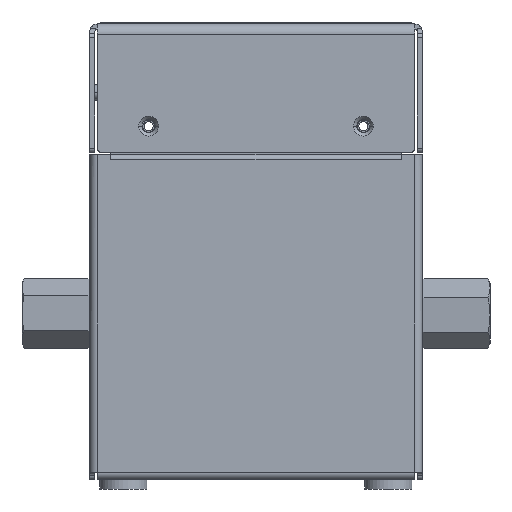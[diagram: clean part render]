
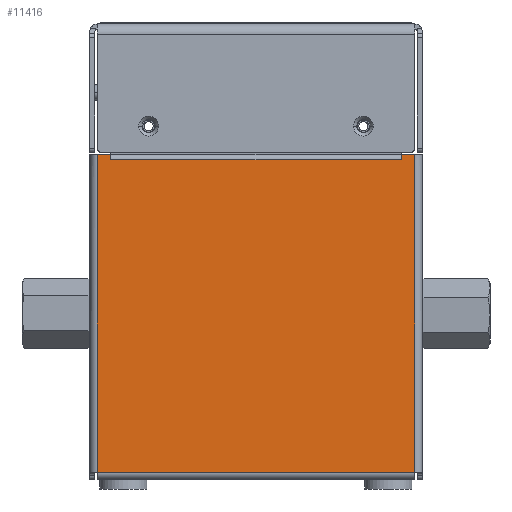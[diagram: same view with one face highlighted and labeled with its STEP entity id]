
A CAD part, front view. The second image highlights one B-rep face of the part: STEP entity #11416.
In plain terms, the highlighted planar face has unit normal (0, -1, 0) as drawn and (-1, 0, 0) by its records, which use the part's own axes.
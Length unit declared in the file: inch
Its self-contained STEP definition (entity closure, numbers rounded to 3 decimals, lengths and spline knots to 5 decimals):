
#7882=DIRECTION('',(0.,-1.,0.));
#7883=VECTOR('',#7882,2.959);
#7884=CARTESIAN_POINT('',(-0.047,1.513,-1.48));
#7885=LINE('',#7884,#7883);
#7886=DIRECTION('',(0.,0.,1.));
#7887=VECTOR('',#7886,0.125);
#7888=CARTESIAN_POINT('',(-0.047,1.513,-1.48));
#7889=LINE('',#7888,#7887);
#7890=DIRECTION('',(0.,-1.,0.));
#7891=VECTOR('',#7890,0.047);
#7892=CARTESIAN_POINT('',(-0.047,1.513,-1.355));
#7893=LINE('',#7892,#7891);
#7894=DIRECTION('',(0.,0.,1.));
#7895=VECTOR('',#7894,0.125);
#7896=CARTESIAN_POINT('',(-0.047,1.513,1.355));
#7897=LINE('',#7896,#7895);
#7911=DIRECTION('',(0.,1.,0.));
#7912=VECTOR('',#7911,2.959);
#7913=CARTESIAN_POINT('',(-0.047,-1.446,1.48));
#7914=LINE('',#7913,#7912);
#9211=DIRECTION('',(0.,-1.,0.));
#9212=VECTOR('',#9211,0.047);
#9213=CARTESIAN_POINT('',(-0.047,1.513,1.355));
#9214=LINE('',#9213,#9212);
#9232=DIRECTION('',(0.,0.,-1.));
#9233=VECTOR('',#9232,2.71);
#9234=CARTESIAN_POINT('',(-0.047,1.466,1.355));
#9235=LINE('',#9234,#9233);
#9425=DIRECTION('',(0.,0.,1.));
#9426=VECTOR('',#9425,2.96);
#9427=CARTESIAN_POINT('',(-0.047,-1.446,-1.48));
#9428=LINE('',#9427,#9426);
#10409=CARTESIAN_POINT('',(-0.047,1.513,-1.48));
#10410=VERTEX_POINT('',#10409);
#10415=CARTESIAN_POINT('',(-0.047,-1.446,-1.48));
#10416=VERTEX_POINT('',#10415);
#10457=CARTESIAN_POINT('',(-0.047,-1.446,1.48));
#10458=CARTESIAN_POINT('',(-0.047,1.513,1.48));
#10459=VERTEX_POINT('',#10457);
#10460=VERTEX_POINT('',#10458);
#10461=CARTESIAN_POINT('',(-0.047,1.513,-1.355));
#10462=VERTEX_POINT('',#10461);
#10463=CARTESIAN_POINT('',(-0.047,1.466,-1.355));
#10464=VERTEX_POINT('',#10463);
#10465=CARTESIAN_POINT('',(-0.047,1.466,1.355));
#10466=VERTEX_POINT('',#10465);
#10467=CARTESIAN_POINT('',(-0.047,1.513,1.355));
#10468=VERTEX_POINT('',#10467);
#11394=CARTESIAN_POINT('',(-0.047,-1.513,1.48));
#11395=DIRECTION('',(1.,0.,0.));
#11396=DIRECTION('',(0.,0.,-1.));
#11397=AXIS2_PLACEMENT_3D('',#11394,#11395,#11396);
#11398=PLANE('',#11397);
#11400=ORIENTED_EDGE('',*,*,#11399,.F.);
#11402=ORIENTED_EDGE('',*,*,#11401,.F.);
#11403=ORIENTED_EDGE('',*,*,#11388,.F.);
#11405=ORIENTED_EDGE('',*,*,#11404,.T.);
#11407=ORIENTED_EDGE('',*,*,#11406,.T.);
#11409=ORIENTED_EDGE('',*,*,#11408,.F.);
#11411=ORIENTED_EDGE('',*,*,#11410,.F.);
#11413=ORIENTED_EDGE('',*,*,#11412,.T.);
#11414=EDGE_LOOP('',(#11400,#11402,#11403,#11405,#11407,#11409,#11411,#11413));
#11415=FACE_OUTER_BOUND('',#11414,.F.);
#11416=ADVANCED_FACE('',(#11415),#11398,.F.);
#11388=EDGE_CURVE('',#10410,#10416,#7885,.T.);
#11399=EDGE_CURVE('',#10459,#10460,#7914,.T.);
#11401=EDGE_CURVE('',#10416,#10459,#9428,.T.);
#11404=EDGE_CURVE('',#10410,#10462,#7889,.T.);
#11406=EDGE_CURVE('',#10462,#10464,#7893,.T.);
#11408=EDGE_CURVE('',#10466,#10464,#9235,.T.);
#11410=EDGE_CURVE('',#10468,#10466,#9214,.T.);
#11412=EDGE_CURVE('',#10468,#10460,#7897,.T.);
